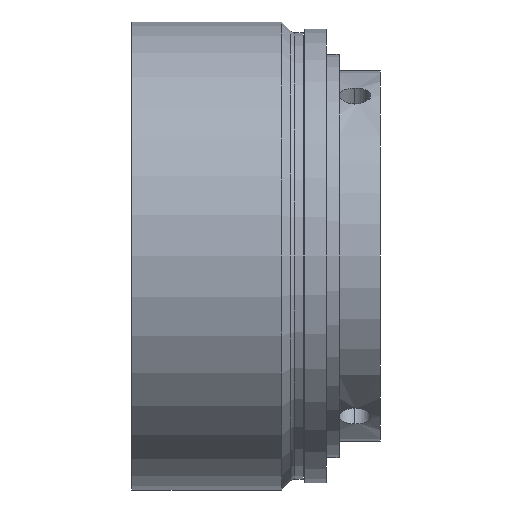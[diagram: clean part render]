
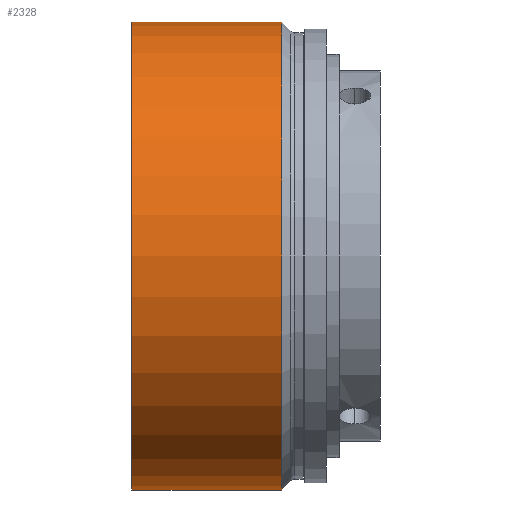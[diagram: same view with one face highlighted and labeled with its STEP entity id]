
A CAD part, front view. The second image highlights one B-rep face of the part: STEP entity #2328.
In plain terms, the highlighted cylindrical face has radius 32.5 mm (diameter 65 mm), a partial arc.
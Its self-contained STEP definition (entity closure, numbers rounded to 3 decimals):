
#72 = DIRECTION ( 'NONE',  ( 0., 0., 1. ) ) ;
#132 = DIRECTION ( 'NONE',  ( -1., 0., 0. ) ) ;
#145 = CARTESIAN_POINT ( 'NONE',  ( 0., 0., 0. ) ) ;
#375 = VERTEX_POINT ( 'NONE', #496 ) ;
#377 = CARTESIAN_POINT ( 'NONE',  ( 20.8, 0., 0. ) ) ;
#464 = FACE_OUTER_BOUND ( 'NONE', #1911, .T. ) ;
#465 = CARTESIAN_POINT ( 'NONE',  ( 20.8, 0., 32.5 ) ) ;
#496 = CARTESIAN_POINT ( 'NONE',  ( 0., 0., 32.5 ) ) ;
#541 = CARTESIAN_POINT ( 'NONE',  ( 0., 0., -32.5 ) ) ;
#648 = DIRECTION ( 'NONE',  ( -1., 0., 0. ) ) ;
#715 = LINE ( 'NONE', #2415, #2129 ) ;
#780 = DIRECTION ( 'NONE',  ( 0., 0., 1. ) ) ;
#829 = LINE ( 'NONE', #541, #1972 ) ;
#898 = CYLINDRICAL_SURFACE ( 'NONE', #1199, 32.5 ) ;
#939 = ORIENTED_EDGE ( 'NONE', *, *, #1241, .T. ) ;
#1012 = CIRCLE ( 'NONE', #1135, 32.5 ) ;
#1135 = AXIS2_PLACEMENT_3D ( 'NONE', #1246, #1675, #780 ) ;
#1199 = AXIS2_PLACEMENT_3D ( 'NONE', #145, #132, #72 ) ;
#1210 = DIRECTION ( 'NONE',  ( 0., 0., 1. ) ) ;
#1241 = EDGE_CURVE ( 'NONE', #1684, #1408, #1291, .T. ) ;
#1246 = CARTESIAN_POINT ( 'NONE',  ( 0., 0., 0. ) ) ;
#1291 = CIRCLE ( 'NONE', #2426, 32.5 ) ;
#1408 = VERTEX_POINT ( 'NONE', #465 ) ;
#1448 = DIRECTION ( 'NONE',  ( -1., 0., 0. ) ) ;
#1485 = EDGE_CURVE ( 'NONE', #1684, #2058, #829, .T. ) ;
#1675 = DIRECTION ( 'NONE',  ( -1., 0., 0. ) ) ;
#1684 = VERTEX_POINT ( 'NONE', #2184 ) ;
#1735 = EDGE_CURVE ( 'NONE', #1408, #375, #715, .T. ) ;
#1737 = ORIENTED_EDGE ( 'NONE', *, *, #1873, .F. ) ;
#1873 = EDGE_CURVE ( 'NONE', #2058, #375, #1012, .T. ) ;
#1911 = EDGE_LOOP ( 'NONE', ( #2345, #939, #2063, #1737 ) ) ;
#1965 = CARTESIAN_POINT ( 'NONE',  ( 0., 0., -32.5 ) ) ;
#1972 = VECTOR ( 'NONE', #2515, 1000. ) ;
#2058 = VERTEX_POINT ( 'NONE', #1965 ) ;
#2063 = ORIENTED_EDGE ( 'NONE', *, *, #1735, .T. ) ;
#2129 = VECTOR ( 'NONE', #648, 1000. ) ;
#2184 = CARTESIAN_POINT ( 'NONE',  ( 20.8, 0., -32.5 ) ) ;
#2328 = ADVANCED_FACE ( 'NONE', ( #464 ), #898, .T. ) ;
#2345 = ORIENTED_EDGE ( 'NONE', *, *, #1485, .F. ) ;
#2415 = CARTESIAN_POINT ( 'NONE',  ( 0., 0., 32.5 ) ) ;
#2426 = AXIS2_PLACEMENT_3D ( 'NONE', #377, #1448, #1210 ) ;
#2515 = DIRECTION ( 'NONE',  ( -1., 0., 0. ) ) ;
